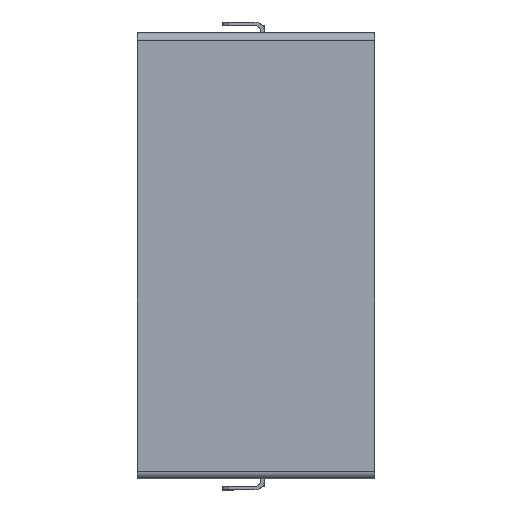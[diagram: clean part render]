
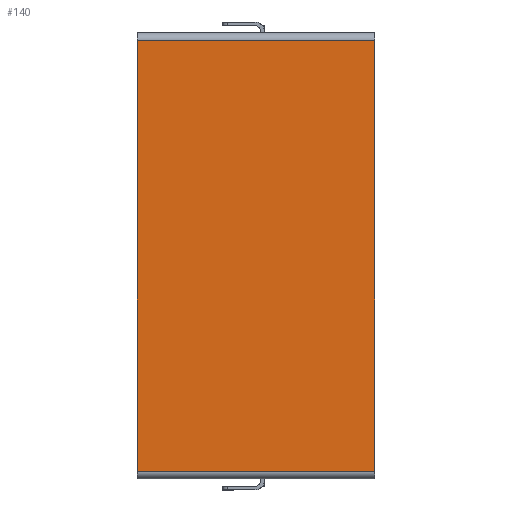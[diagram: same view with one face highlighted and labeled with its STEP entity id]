
A CAD part, front view. The second image highlights one B-rep face of the part: STEP entity #140.
In plain terms, the highlighted planar face has unit normal (0, -1, 0).
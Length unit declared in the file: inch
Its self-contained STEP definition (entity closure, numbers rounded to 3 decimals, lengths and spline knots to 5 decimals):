
#13 = VERTEX_POINT ( 'NONE', #1470 ) ;
#56 = EDGE_CURVE ( 'NONE', #223, #164, #1626, .T. ) ;
#57 = ORIENTED_EDGE ( 'NONE', *, *, #147, .F. ) ;
#94 = VERTEX_POINT ( 'NONE', #1744 ) ;
#95 = EDGE_CURVE ( 'NONE', #223, #94, #1740, .T. ) ;
#107 = ORIENTED_EDGE ( 'NONE', *, *, #108, .T. ) ;
#108 = EDGE_CURVE ( 'NONE', #13, #94, #1838, .T. ) ;
#110 = ORIENTED_EDGE ( 'NONE', *, *, #56, .T. ) ;
#111 = ORIENTED_EDGE ( 'NONE', *, *, #95, .F. ) ;
#140 = ADVANCED_FACE ( 'NONE', ( #1774 ), #1773, .F. ) ;
#147 = EDGE_CURVE ( 'NONE', #13, #164, #1806, .T. ) ;
#157 = EDGE_LOOP ( 'NONE', ( #110, #57, #107, #111 ) ) ;
#164 = VERTEX_POINT ( 'NONE', #1759 ) ;
#223 = VERTEX_POINT ( 'NONE', #1898 ) ;
#1470 = CARTESIAN_POINT ( 'NONE',  ( 3.125, 0., 2.8352 ) ) ;
#1623 = DIRECTION ( 'NONE',  ( 1., 0., 0. ) ) ;
#1624 = VECTOR ( 'NONE', #1623, 39.37008 ) ;
#1625 = CARTESIAN_POINT ( 'NONE',  ( 0., 0., -2.8352 ) ) ;
#1626 = LINE ( 'NONE', #1625, #1624 ) ;
#1713 = DIRECTION ( 'NONE',  ( -1., 0., 0. ) ) ;
#1714 = VECTOR ( 'NONE', #1713, 39.37008 ) ;
#1715 = CARTESIAN_POINT ( 'NONE',  ( 3.125, 0., 2.8352 ) ) ;
#1735 = DIRECTION ( 'NONE',  ( 0., 0., -1. ) ) ;
#1736 = VECTOR ( 'NONE', #1735, 39.37008 ) ;
#1737 = CARTESIAN_POINT ( 'NONE',  ( 3.125, 0., 2.935 ) ) ;
#1740 = LINE ( 'NONE', #1743, #1754 ) ;
#1741 = DIRECTION ( 'NONE',  ( 0., 0., 1. ) ) ;
#1743 = CARTESIAN_POINT ( 'NONE',  ( 0., 0., -2.935 ) ) ;
#1744 = CARTESIAN_POINT ( 'NONE',  ( 0., 0., 2.8352 ) ) ;
#1754 = VECTOR ( 'NONE', #1741, 39.37008 ) ;
#1759 = CARTESIAN_POINT ( 'NONE',  ( 3.125, 0., -2.8352 ) ) ;
#1769 = DIRECTION ( 'NONE',  ( 0., 0., 1. ) ) ;
#1770 = DIRECTION ( 'NONE',  ( 0., 1., 0. ) ) ;
#1771 = CARTESIAN_POINT ( 'NONE',  ( 0., 0., -2.935 ) ) ;
#1772 = AXIS2_PLACEMENT_3D ( 'NONE', #1771, #1770, #1769 ) ;
#1773 = PLANE ( 'NONE',  #1772 ) ;
#1774 = FACE_OUTER_BOUND ( 'NONE', #157, .T. ) ;
#1806 = LINE ( 'NONE', #1737, #1736 ) ;
#1838 = LINE ( 'NONE', #1715, #1714 ) ;
#1898 = CARTESIAN_POINT ( 'NONE',  ( 0., 0., -2.8352 ) ) ;
